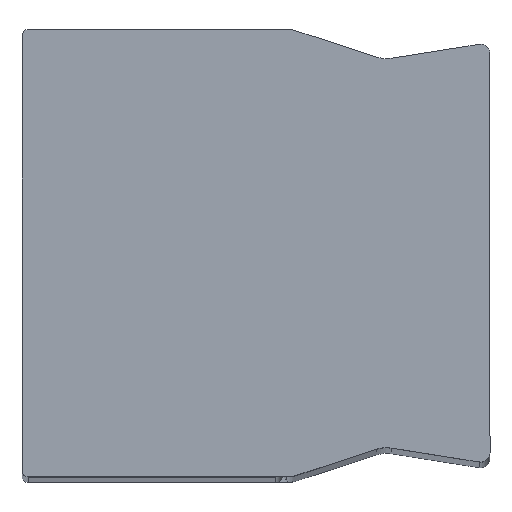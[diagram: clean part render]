
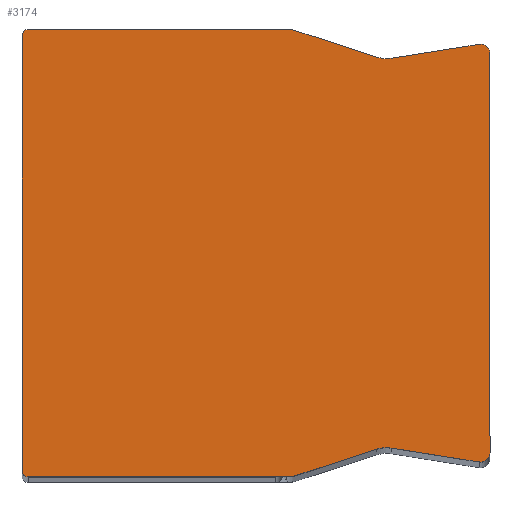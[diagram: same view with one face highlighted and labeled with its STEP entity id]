
A CAD part, top view. The second image highlights one B-rep face of the part: STEP entity #3174.
In plain terms, the highlighted planar face has unit normal (0, 0, 1).
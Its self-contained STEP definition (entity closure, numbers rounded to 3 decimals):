
#167=CIRCLE('',#3454,0.2);
#168=CIRCLE('',#3457,0.2);
#169=CIRCLE('',#3460,0.2);
#170=CIRCLE('',#3463,1.);
#171=CIRCLE('',#3466,0.3);
#172=CIRCLE('',#3469,0.3);
#173=CIRCLE('',#3472,1.);
#174=CIRCLE('',#3475,0.2);
#400=FACE_OUTER_BOUND('',#560,.T.);
#560=EDGE_LOOP('',(#2817,#2818,#2819,#2820,#2821,#2822,#2823,#2824,#2825,
#2826,#2827,#2828,#2829,#2830,#2831,#2832));
#851=LINE('',#5258,#1163);
#854=LINE('',#5266,#1166);
#857=LINE('',#5274,#1169);
#860=LINE('',#5282,#1172);
#863=LINE('',#5290,#1175);
#866=LINE('',#5298,#1178);
#869=LINE('',#5306,#1181);
#872=LINE('',#5313,#1184);
#1163=VECTOR('',#4329,13.845);
#1166=VECTOR('',#4338,8.362);
#1169=VECTOR('',#4347,2.801);
#1172=VECTOR('',#4356,2.833);
#1175=VECTOR('',#4365,12.703);
#1178=VECTOR('',#4374,2.833);
#1181=VECTOR('',#4383,2.801);
#1184=VECTOR('',#4392,8.362);
#1467=VERTEX_POINT('',#5251);
#1468=VERTEX_POINT('',#5253);
#1469=VERTEX_POINT('',#5257);
#1470=VERTEX_POINT('',#5261);
#1471=VERTEX_POINT('',#5265);
#1472=VERTEX_POINT('',#5269);
#1473=VERTEX_POINT('',#5273);
#1474=VERTEX_POINT('',#5277);
#1475=VERTEX_POINT('',#5281);
#1476=VERTEX_POINT('',#5285);
#1477=VERTEX_POINT('',#5289);
#1478=VERTEX_POINT('',#5293);
#1479=VERTEX_POINT('',#5297);
#1480=VERTEX_POINT('',#5301);
#1481=VERTEX_POINT('',#5305);
#1482=VERTEX_POINT('',#5309);
#1902=EDGE_CURVE('',#1468,#1467,#167,.T.);
#1904=EDGE_CURVE('',#1469,#1468,#851,.T.);
#1906=EDGE_CURVE('',#1470,#1469,#168,.T.);
#1908=EDGE_CURVE('',#1471,#1470,#854,.T.);
#1910=EDGE_CURVE('',#1472,#1471,#169,.T.);
#1912=EDGE_CURVE('',#1473,#1472,#857,.T.);
#1914=EDGE_CURVE('',#1474,#1473,#170,.T.);
#1916=EDGE_CURVE('',#1475,#1474,#860,.T.);
#1918=EDGE_CURVE('',#1476,#1475,#171,.T.);
#1920=EDGE_CURVE('',#1477,#1476,#863,.T.);
#1922=EDGE_CURVE('',#1478,#1477,#172,.T.);
#1924=EDGE_CURVE('',#1479,#1478,#866,.T.);
#1926=EDGE_CURVE('',#1480,#1479,#173,.T.);
#1928=EDGE_CURVE('',#1481,#1480,#869,.T.);
#1930=EDGE_CURVE('',#1482,#1481,#174,.T.);
#1932=EDGE_CURVE('',#1467,#1482,#872,.T.);
#2817=ORIENTED_EDGE('',*,*,#1932,.T.);
#2818=ORIENTED_EDGE('',*,*,#1930,.T.);
#2819=ORIENTED_EDGE('',*,*,#1928,.T.);
#2820=ORIENTED_EDGE('',*,*,#1926,.T.);
#2821=ORIENTED_EDGE('',*,*,#1924,.T.);
#2822=ORIENTED_EDGE('',*,*,#1922,.T.);
#2823=ORIENTED_EDGE('',*,*,#1920,.T.);
#2824=ORIENTED_EDGE('',*,*,#1918,.T.);
#2825=ORIENTED_EDGE('',*,*,#1916,.T.);
#2826=ORIENTED_EDGE('',*,*,#1914,.T.);
#2827=ORIENTED_EDGE('',*,*,#1912,.T.);
#2828=ORIENTED_EDGE('',*,*,#1910,.T.);
#2829=ORIENTED_EDGE('',*,*,#1908,.T.);
#2830=ORIENTED_EDGE('',*,*,#1906,.T.);
#2831=ORIENTED_EDGE('',*,*,#1904,.T.);
#2832=ORIENTED_EDGE('',*,*,#1902,.T.);
#2924=PLANE('',#3477);
#3174=ADVANCED_FACE('',(#400),#2924,.T.);
#3454=AXIS2_PLACEMENT_3D('',#5254,#4324,#4325);
#3457=AXIS2_PLACEMENT_3D('',#5262,#4333,#4334);
#3460=AXIS2_PLACEMENT_3D('',#5270,#4342,#4343);
#3463=AXIS2_PLACEMENT_3D('',#5278,#4351,#4352);
#3466=AXIS2_PLACEMENT_3D('',#5286,#4360,#4361);
#3469=AXIS2_PLACEMENT_3D('',#5294,#4369,#4370);
#3472=AXIS2_PLACEMENT_3D('',#5302,#4378,#4379);
#3475=AXIS2_PLACEMENT_3D('',#5310,#4387,#4388);
#3477=AXIS2_PLACEMENT_3D('',#5314,#4393,#4394);
#4324=DIRECTION('center_axis',(0.,0.,1.));
#4325=DIRECTION('ref_axis',(1.,0.,0.));
#4329=DIRECTION('',(0.,1.,0.));
#4333=DIRECTION('center_axis',(0.,0.,1.));
#4334=DIRECTION('ref_axis',(0.,-1.,0.));
#4338=DIRECTION('',(1.,0.,0.));
#4342=DIRECTION('center_axis',(0.,0.,1.));
#4343=DIRECTION('ref_axis',(-0.311,-0.95,0.));
#4347=DIRECTION('',(0.95,-0.311,0.));
#4351=DIRECTION('center_axis',(0.,0.,-1.));
#4352=DIRECTION('ref_axis',(-0.311,-0.95,0.));
#4356=DIRECTION('',(0.988,0.156,0.));
#4360=DIRECTION('center_axis',(0.,0.,1.));
#4361=DIRECTION('ref_axis',(-1.,0.,0.));
#4365=DIRECTION('',(0.,-1.,0.));
#4369=DIRECTION('center_axis',(0.,0.,1.));
#4370=DIRECTION('ref_axis',(0.156,0.988,0.));
#4374=DIRECTION('',(-0.988,0.156,0.));
#4378=DIRECTION('center_axis',(0.,0.,-1.));
#4379=DIRECTION('ref_axis',(0.156,0.988,0.));
#4383=DIRECTION('',(-0.95,-0.311,0.));
#4387=DIRECTION('center_axis',(0.,0.,1.));
#4388=DIRECTION('ref_axis',(0.,1.,0.));
#4392=DIRECTION('',(-1.,0.,0.));
#4393=DIRECTION('center_axis',(0.,0.,1.));
#4394=DIRECTION('ref_axis',(1.,0.,0.));
#5251=CARTESIAN_POINT('',(14.699,7.122,2.));
#5253=CARTESIAN_POINT('',(14.899,6.922,2.));
#5254=CARTESIAN_POINT('Origin',(14.699,6.922,2.));
#5257=CARTESIAN_POINT('',(14.899,-6.922,2.));
#5258=CARTESIAN_POINT('',(14.899,-6.922,2.));
#5261=CARTESIAN_POINT('',(14.699,-7.122,2.));
#5262=CARTESIAN_POINT('Origin',(14.699,-6.922,2.));
#5265=CARTESIAN_POINT('',(6.337,-7.122,2.));
#5266=CARTESIAN_POINT('',(6.337,-7.122,2.));
#5269=CARTESIAN_POINT('',(6.275,-7.113,2.));
#5270=CARTESIAN_POINT('Origin',(6.337,-6.922,2.));
#5273=CARTESIAN_POINT('',(3.613,-6.242,2.));
#5274=CARTESIAN_POINT('',(3.613,-6.242,2.));
#5277=CARTESIAN_POINT('',(3.145,-6.205,2.));
#5278=CARTESIAN_POINT('Origin',(3.302,-7.192,2.));
#5281=CARTESIAN_POINT('',(0.347,-6.648,2.));
#5282=CARTESIAN_POINT('',(0.347,-6.648,2.));
#5285=CARTESIAN_POINT('',(0.,-6.352,2.));
#5286=CARTESIAN_POINT('Origin',(0.3,-6.352,2.));
#5289=CARTESIAN_POINT('',(0.,6.352,2.));
#5290=CARTESIAN_POINT('',(0.,6.352,2.));
#5293=CARTESIAN_POINT('',(0.347,6.648,2.));
#5294=CARTESIAN_POINT('Origin',(0.3,6.352,2.));
#5297=CARTESIAN_POINT('',(3.145,6.205,2.));
#5298=CARTESIAN_POINT('',(3.145,6.205,2.));
#5301=CARTESIAN_POINT('',(3.613,6.242,2.));
#5302=CARTESIAN_POINT('Origin',(3.302,7.192,2.));
#5305=CARTESIAN_POINT('',(6.275,7.113,2.));
#5306=CARTESIAN_POINT('',(6.275,7.113,2.));
#5309=CARTESIAN_POINT('',(6.337,7.122,2.));
#5310=CARTESIAN_POINT('Origin',(6.337,6.922,2.));
#5313=CARTESIAN_POINT('',(14.699,7.122,2.));
#5314=CARTESIAN_POINT('Origin',(7.595,0.,2.));
